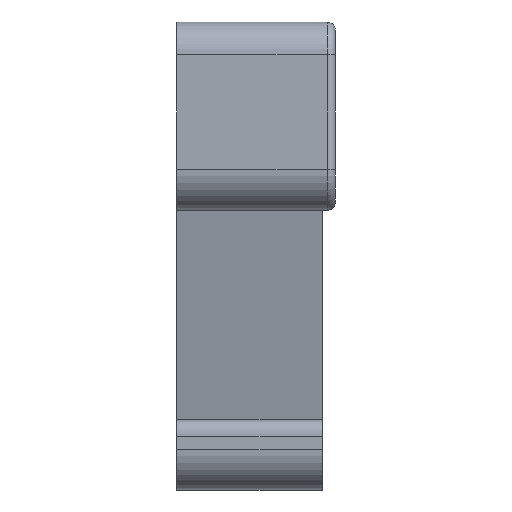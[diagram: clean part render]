
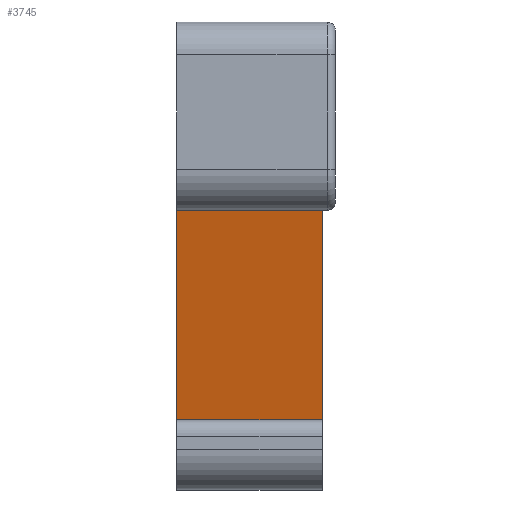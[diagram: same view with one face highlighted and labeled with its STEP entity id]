
A CAD part, front view. The second image highlights one B-rep face of the part: STEP entity #3745.
In plain terms, the highlighted planar face has unit normal (0, -0.979, -0.206).
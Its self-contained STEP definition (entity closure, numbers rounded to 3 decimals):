
#136 = VECTOR ( 'NONE', #785, 1000. ) ;
#140 = VECTOR ( 'NONE', #2077, 1000. ) ;
#168 = VECTOR ( 'NONE', #2023, 1000. ) ;
#265 = VECTOR ( 'NONE', #2167, 1000. ) ;
#384 = EDGE_CURVE ( 'NONE', #3315, #3314, #2021, .T. ) ;
#399 = EDGE_CURVE ( 'NONE', #3417, #3269, #2075, .T. ) ;
#429 = EDGE_CURVE ( 'NONE', #3269, #3315, #2165, .T. ) ;
#647 = EDGE_CURVE ( 'NONE', #3417, #3314, #783, .T. ) ;
#783 = LINE ( 'NONE', #784, #136 ) ;
#784 = CARTESIAN_POINT ( 'NONE',  ( -4.85, -28.3, -9.3 ) ) ;
#785 = DIRECTION ( 'NONE',  ( 1., 0., 0. ) ) ;
#952 = CARTESIAN_POINT ( 'NONE',  ( -4.85, -31., 3.5 ) ) ;
#997 = CARTESIAN_POINT ( 'NONE',  ( 4.05, -28.3, -9.3 ) ) ;
#998 = CARTESIAN_POINT ( 'NONE',  ( 4.05, -31., 3.5 ) ) ;
#1100 = CARTESIAN_POINT ( 'NONE',  ( -4.85, -28.3, -9.3 ) ) ;
#1617 = PLANE ( 'NONE',  #3992 ) ;
#1618 = CARTESIAN_POINT ( 'NONE',  ( -4.85, -28.3, -9.3 ) ) ;
#1619 = DIRECTION ( 'NONE',  ( 0., 0.978, 0.206 ) ) ;
#1620 = DIRECTION ( 'NONE',  ( 0., -0.206, 0.978 ) ) ;
#2021 = LINE ( 'NONE', #2022, #168 ) ;
#2022 = CARTESIAN_POINT ( 'NONE',  ( 4.05, -28.3, -9.3 ) ) ;
#2023 = DIRECTION ( 'NONE',  ( 0., 0.206, -0.978 ) ) ;
#2075 = LINE ( 'NONE', #2076, #140 ) ;
#2076 = CARTESIAN_POINT ( 'NONE',  ( -4.85, -28.3, -9.3 ) ) ;
#2077 = DIRECTION ( 'NONE',  ( 0., -0.206, 0.978 ) ) ;
#2165 = LINE ( 'NONE', #2166, #265 ) ;
#2166 = CARTESIAN_POINT ( 'NONE',  ( -4.85, -31., 3.5 ) ) ;
#2167 = DIRECTION ( 'NONE',  ( 1., 0., 0. ) ) ;
#2441 = EDGE_LOOP ( 'NONE', ( #2902, #2904, #2906, #2905 ) ) ;
#2902 = ORIENTED_EDGE ( 'NONE', *, *, #384, .F. ) ;
#2904 = ORIENTED_EDGE ( 'NONE', *, *, #429, .F. ) ;
#2905 = ORIENTED_EDGE ( 'NONE', *, *, #647, .T. ) ;
#2906 = ORIENTED_EDGE ( 'NONE', *, *, #399, .F. ) ;
#3269 = VERTEX_POINT ( 'NONE', #952 ) ;
#3314 = VERTEX_POINT ( 'NONE', #997 ) ;
#3315 = VERTEX_POINT ( 'NONE', #998 ) ;
#3417 = VERTEX_POINT ( 'NONE', #1100 ) ;
#3745 = ADVANCED_FACE ( 'NONE', ( #3991 ), #1617, .F. ) ;
#3991 = FACE_OUTER_BOUND ( 'NONE', #2441, .T. ) ;
#3992 = AXIS2_PLACEMENT_3D ( 'NONE', #1618, #1619, #1620 ) ;
